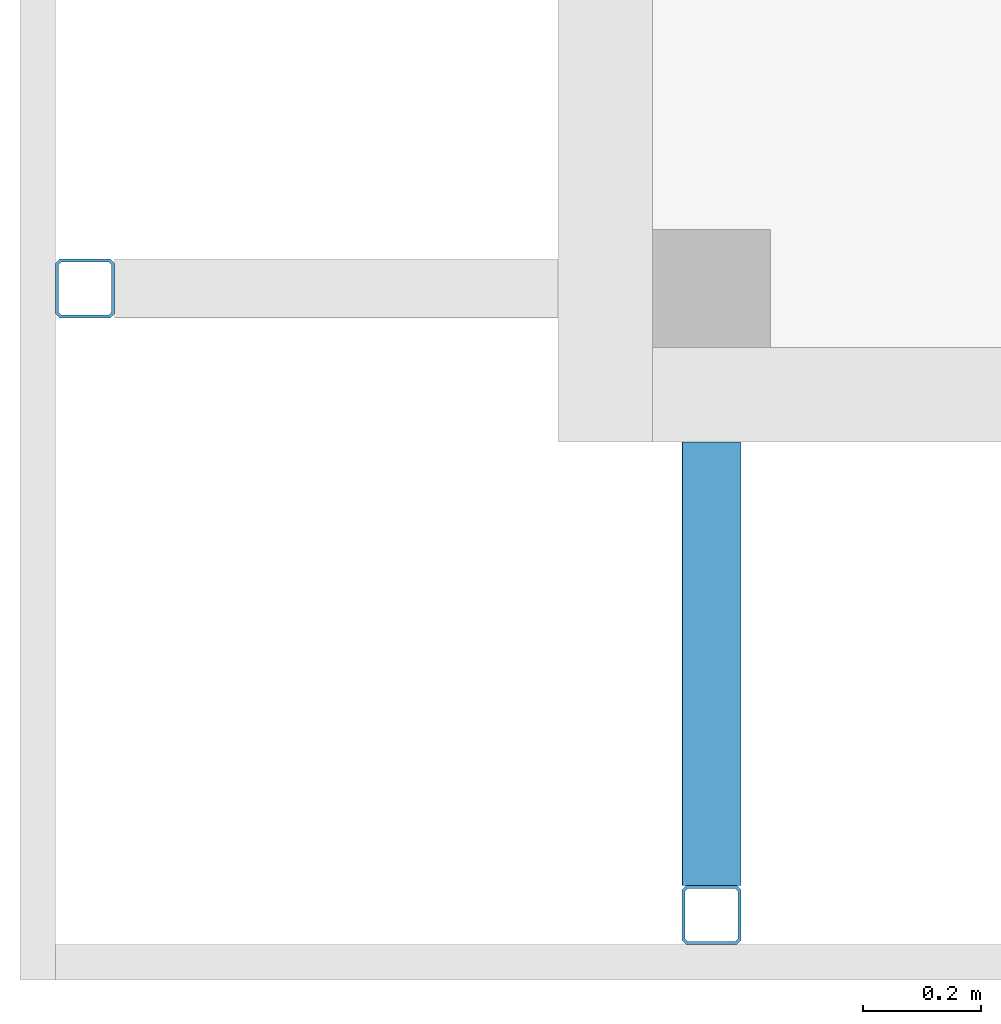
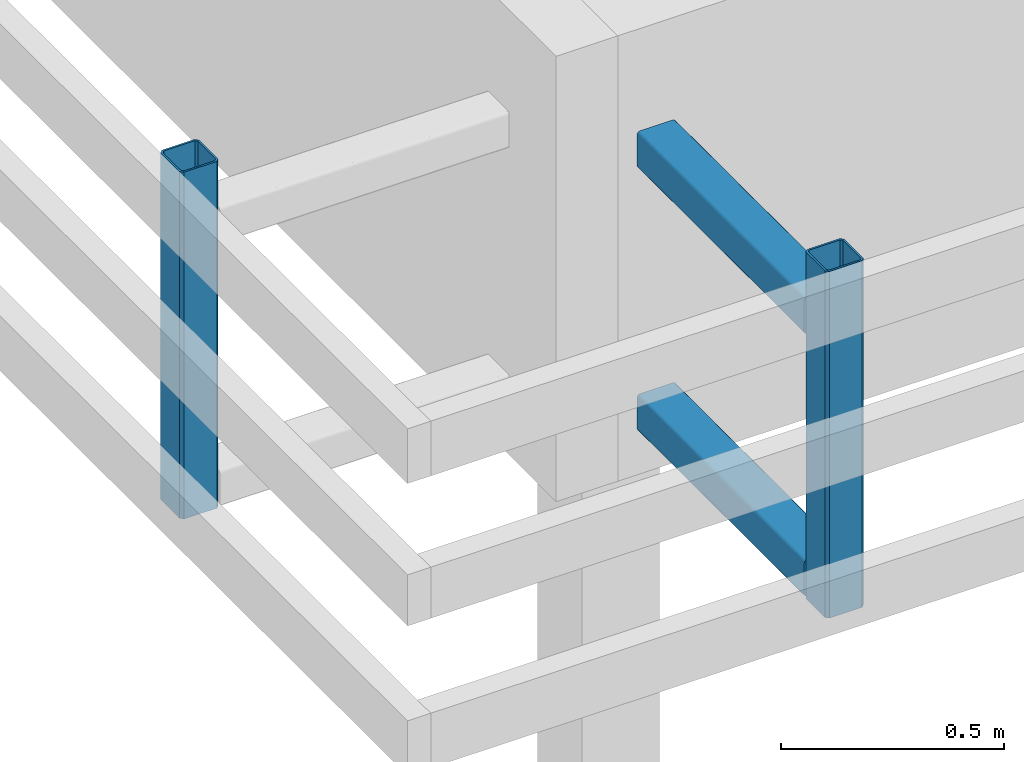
# One storey, part 4 of 44: 4 members.
"""IFC4 building model written with IfcOpenShell, lengths in metres."""

from ifc_helpers import new_model, entity, si_unit, converted_unit, derived_unit, frame, origin, place, context, subcontext, project, spatial, faceted_brep, material, element, save


model = new_model("IFC4")

# Units and contexts
model_context = context("Model", 3, precision=1e-05, world=origin())
plan_context = context("Plan", 2, precision=1e-05, world=origin())
body_context = subcontext(model_context, "Body", "Model", "MODEL_VIEW")
ifc_project = project(units=[si_unit("LENGTHUNIT", "METRE"), si_unit("AREAUNIT", "SQUARE_METRE"), si_unit("VOLUMEUNIT", "CUBIC_METRE"), si_unit("MASSUNIT", "GRAM", prefix="KILO"), converted_unit("PLANEANGLEUNIT", "DEGREE", entity("IfcPlaneAngleMeasure", 0.0174532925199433), si_unit("PLANEANGLEUNIT", "RADIAN"), dimensions=[0, 0, 0, 0, 0, 0, 0]), derived_unit("THERMALTRANSMITTANCEUNIT", [(si_unit("POWERUNIT", "WATT"), 1), (si_unit("THERMODYNAMICTEMPERATUREUNIT", "KELVIN"), -1), (si_unit("LENGTHUNIT", "METRE"), -2)]), derived_unit("VOLUMETRICFLOWRATEUNIT", [(si_unit("LENGTHUNIT", "METRE"), 3), (converted_unit("TIMEUNIT", "hour", entity("IfcTimeMeasure", 3600.0), si_unit("TIMEUNIT", "SECOND"), dimensions=[0, 0, 1, 0, 0, 0, 0]), -1), (si_unit("LENGTHUNIT", "METRE"), -1)])], contexts=[model_context, plan_context])

# Site, building, storey
site_placement = place(None, origin())
site = spatial("IfcSite", under=ifc_project, at=site_placement, Name="Site", CompositionType="ELEMENT")
building_placement = place(site_placement, origin())
building = spatial("IfcBuilding", under=site, at=building_placement, Name="Admin", CompositionType="ELEMENT")
storey_placement = place(building_placement, frame((0.0, 0.0, 3.25)))
storey = spatial("IfcBuildingStorey", under=building, at=storey_placement, Name="01-Etage1", CompositionType="ELEMENT", Elevation=3.25)

# Members
ifc_material_1 = material(Name="S235")
member_1_placement = place(storey_placement, frame((23.1498008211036, 12.0794493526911, 2.82)))
element("IfcMember", 1, at=member_1_placement, inside=storey, material=ifc_material_1, Name="Colonnes bois R+1", context=body_context, shape_type="Brep", body=[
    faceted_brep([(0.0950000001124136, 0.0900000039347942, 0.0), (0.0950000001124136, 0.0900000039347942, 0.95), (0.095000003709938, 0.0100000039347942, 0.95), (0.095000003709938, 0.0100000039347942, 0.0), (0.0899999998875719, 0.0950000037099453, 0.0), (0.0899999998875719, 0.0950000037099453, 0.95), (0.0099999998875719, 0.0950000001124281, 0.0), (0.0099999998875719, 0.0950000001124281, 0.95), (0.00500000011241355, 0.0899999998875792, 0.0), (0.00500000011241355, 0.0899999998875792, 0.95), (0.00500000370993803, 0.00999999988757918, 0.0), (0.00500000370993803, 0.00999999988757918, 0.95), (0.0100000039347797, 0.0050000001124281, 0.0), (0.0100000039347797, 0.0050000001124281, 0.95), (0.0900000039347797, 0.0050000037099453, 0.0), (0.0900000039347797, 0.0050000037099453, 0.95), (0.0925000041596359, 3.82237340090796e-09, 0.0), (0.0925000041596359, 3.82237340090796e-09, 0.95), (0.100000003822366, 0.00750000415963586, 0.95), (0.100000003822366, 0.00750000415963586, 0.0), (0.00750000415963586, 0.0, 0.0), (0.00750000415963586, 0.0, 0.95), (3.82236612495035e-09, 0.00749999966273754, 0.0), (3.82236612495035e-09, 0.00749999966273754, 0.95), (0.0, 0.0924999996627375, 0.0), (0.0, 0.0924999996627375, 0.95), (0.00749999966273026, 0.1, 0.0), (0.00749999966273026, 0.1, 0.95), (0.0924999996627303, 0.100000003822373, 0.0), (0.0924999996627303, 0.100000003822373, 0.95), (0.1, 0.0925000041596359, 0.0), (0.1, 0.0925000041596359, 0.95)], [[[0, 1, 2, 3]], [[4, 5, 1, 0]], [[6, 7, 5, 4]], [[8, 9, 7, 6]], [[10, 11, 9, 8]], [[12, 13, 11, 10]], [[14, 15, 13, 12]], [[3, 2, 15, 14]], [[16, 17, 18, 19]], [[20, 21, 17, 16]], [[22, 23, 21, 20]], [[24, 25, 23, 22]], [[26, 27, 25, 24]], [[28, 29, 27, 26]], [[30, 31, 29, 28]], [[19, 18, 31, 30]], [[18, 17, 21, 23, 25, 27, 29, 31], [2, 1, 5, 7, 9, 11, 13, 15]], [[19, 30, 28, 26, 24, 22, 20, 16], [3, 14, 12, 10, 8, 6, 4, 0]]], orient=[[False], [False], [False], [False], [False], [False], [False], [False], [False], [False], [False], [False], [False], [False], [False], [False], [False, False], [False, False]]),
])
ifc_material_2 = material(Name="S235")
member_2_placement = place(storey_placement, frame((24.2098010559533, 11.0194493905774, 2.82)))
element("IfcMember", 2, at=member_2_placement, inside=storey, material=ifc_material_2, Name="Bandeau R+1", context=body_context, shape_type="Brep", body=[
    faceted_brep([(0.01, 0.095, 0.0), (0.01, 0.095, 0.95), (0.09, 0.095, 0.95), (0.09, 0.095, 0.0), (0.005, 0.09, 0.0), (0.005, 0.09, 0.95), (0.005, 0.01, 0.0), (0.005, 0.01, 0.95), (0.01, 0.005, 0.0), (0.01, 0.005, 0.95), (0.09, 0.005, 0.0), (0.09, 0.005, 0.95), (0.095, 0.01, 0.0), (0.095, 0.01, 0.95), (0.095, 0.09, 0.0), (0.095, 0.09, 0.95), (0.1, 0.0925, 0.0), (0.1, 0.0925, 0.95), (0.0925, 0.1, 0.95), (0.0925, 0.1, 0.0), (0.1, 0.0075, 0.0), (0.1, 0.0075, 0.95), (0.0925, 0.0, 0.0), (0.0925, 0.0, 0.95), (0.0075, 0.0, 0.0), (0.0075, 0.0, 0.95), (0.0, 0.0075, 0.0), (0.0, 0.0075, 0.95), (0.0, 0.0925, 0.0), (0.0, 0.0925, 0.95), (0.0075, 0.1, 0.0), (0.0075, 0.1, 0.95)], [[[0, 1, 2, 3]], [[4, 5, 1, 0]], [[6, 7, 5, 4]], [[8, 9, 7, 6]], [[10, 11, 9, 8]], [[12, 13, 11, 10]], [[14, 15, 13, 12]], [[3, 2, 15, 14]], [[16, 17, 18, 19]], [[20, 21, 17, 16]], [[22, 23, 21, 20]], [[24, 25, 23, 22]], [[26, 27, 25, 24]], [[28, 29, 27, 26]], [[30, 31, 29, 28]], [[19, 18, 31, 30]], [[18, 17, 21, 23, 25, 27, 29, 31], [2, 1, 5, 7, 9, 11, 13, 15]], [[19, 30, 28, 26, 24, 22, 20, 16], [3, 14, 12, 10, 8, 6, 4, 0]]], orient=[[False], [False], [False], [False], [False], [False], [False], [False], [False], [False], [False], [False], [False], [False], [False], [False], [False, False], [False, False]]),
])
ifc_material_3 = material(Name="S235")
member_3_placement = place(storey_placement, frame((24.2098010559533, 11.1194493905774, 3.54)))
element("IfcMember", 3, at=member_3_placement, inside=storey, material=ifc_material_3, Name="Bandeau R+1", context=body_context, shape_type="Brep", body=[
    faceted_brep([(0.095, 0.0, 0.09), (0.095, 0.0, 0.01), (0.0950000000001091, 0.749999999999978, 0.01), (0.0950000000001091, 0.749999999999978, 0.09), (0.0949240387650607, 0.0, 0.0908682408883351), (0.0949240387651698, 0.749999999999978, 0.0908682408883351), (0.0946984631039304, 0.0, 0.0917101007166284), (0.0946984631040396, 0.749999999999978, 0.0917101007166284), (0.0943301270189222, 0.0, 0.0925), (0.0943301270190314, 0.749999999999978, 0.0925), (0.0938302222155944, 0.0, 0.0932139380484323), (0.0938302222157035, 0.749999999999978, 0.0932139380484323), (0.0932139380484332, 1.81898940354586e-15, 0.0938302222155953), (0.0932139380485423, 0.74999999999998, 0.0938302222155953), (0.0925, 1.81898940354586e-15, 0.0943301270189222), (0.0925000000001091, 0.74999999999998, 0.0943301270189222), (0.0917101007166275, 1.81898940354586e-15, 0.0946984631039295), (0.0917101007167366, 0.74999999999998, 0.0946984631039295), (0.090868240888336, 1.81898940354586e-15, 0.0949240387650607), (0.0908682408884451, 0.74999999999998, 0.0949240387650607), (0.09, 1.81898940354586e-15, 0.095), (0.0900000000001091, 0.74999999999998, 0.095), (0.01, 1.2732925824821e-14, 0.095), (0.0100000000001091, 0.749999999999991, 0.095), (0.009131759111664, 1.2732925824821e-14, 0.0949240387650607), (0.00913175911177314, 0.749999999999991, 0.0949240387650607), (0.00828989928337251, 1.2732925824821e-14, 0.0946984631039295), (0.00828989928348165, 0.749999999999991, 0.0946984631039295), (0.0075, 1.2732925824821e-14, 0.0943301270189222), (0.00750000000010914, 0.749999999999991, 0.0943301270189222), (0.00678606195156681, 1.2732925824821e-14, 0.0938302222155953), (0.00678606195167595, 0.749999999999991, 0.0938302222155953), (0.0061697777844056, 1.45519152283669e-14, 0.0932139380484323), (0.00616977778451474, 0.749999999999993, 0.0932139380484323), (0.00566987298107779, 1.45519152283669e-14, 0.0925), (0.00566987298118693, 0.749999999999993, 0.0925), (0.00530153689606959, 1.45519152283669e-14, 0.0917101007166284), (0.00530153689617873, 0.749999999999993, 0.0917101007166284), (0.00507596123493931, 1.45519152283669e-14, 0.0908682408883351), (0.00507596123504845, 0.749999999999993, 0.0908682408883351), (0.005, 1.45519152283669e-14, 0.09), (0.00500000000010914, 0.749999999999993, 0.09), (0.005, 1.45519152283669e-14, 0.01), (0.00500000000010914, 0.749999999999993, 0.01), (0.00507596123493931, 1.45519152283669e-14, 0.00913175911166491), (0.00507596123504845, 0.749999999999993, 0.00913175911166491), (0.00530153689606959, 1.45519152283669e-14, 0.0082898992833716), (0.00530153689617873, 0.749999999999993, 0.0082898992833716), (0.00566987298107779, 1.45519152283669e-14, 0.0075), (0.00566987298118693, 0.749999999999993, 0.0075), (0.0061697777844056, 1.45519152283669e-14, 0.00678606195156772), (0.00616977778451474, 0.749999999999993, 0.00678606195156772), (0.00678606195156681, 1.2732925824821e-14, 0.00616977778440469), (0.00678606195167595, 0.749999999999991, 0.00616977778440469), (0.0075, 1.2732925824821e-14, 0.00566987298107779), (0.00750000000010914, 0.749999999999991, 0.00566987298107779), (0.00828989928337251, 1.2732925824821e-14, 0.0053015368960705), (0.00828989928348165, 0.749999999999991, 0.0053015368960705), (0.009131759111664, 1.2732925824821e-14, 0.00507596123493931), (0.00913175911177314, 0.749999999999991, 0.00507596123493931), (0.01, 1.2732925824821e-14, 0.005), (0.0100000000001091, 0.749999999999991, 0.005), (0.09, 1.81898940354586e-15, 0.005), (0.0900000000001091, 0.74999999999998, 0.005), (0.090868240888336, 1.81898940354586e-15, 0.00507596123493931), (0.0908682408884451, 0.74999999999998, 0.00507596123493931), (0.0917101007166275, 1.81898940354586e-15, 0.0053015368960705), (0.0917101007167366, 0.74999999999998, 0.0053015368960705), (0.0925, 1.81898940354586e-15, 0.00566987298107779), (0.0925000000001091, 0.74999999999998, 0.00566987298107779), (0.0932139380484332, 1.81898940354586e-15, 0.00616977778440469), (0.0932139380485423, 0.74999999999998, 0.00616977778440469), (0.0938302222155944, 0.0, 0.00678606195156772), (0.0938302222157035, 0.749999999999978, 0.00678606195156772), (0.0943301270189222, 0.0, 0.0075), (0.0943301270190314, 0.749999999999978, 0.0075), (0.0946984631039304, 0.0, 0.0082898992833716), (0.0946984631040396, 0.749999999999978, 0.0082898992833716), (0.0949240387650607, 0.0, 0.00913175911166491), (0.0949240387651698, 0.749999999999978, 0.00913175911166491), (0.0075, 1.2732925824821e-14, 0.1), (0.00619763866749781, 1.45519152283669e-14, 0.0998860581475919), (0.00619763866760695, 0.749999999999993, 0.0998860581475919), (0.00750000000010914, 0.749999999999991, 0.1), (0.0925, 1.81898940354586e-15, 0.1), (0.0925000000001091, 0.74999999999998, 0.1), (0.0938023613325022, 0.0, 0.0998860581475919), (0.0938023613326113, 0.749999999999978, 0.0998860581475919), (0.0950651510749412, 0.0, 0.0995476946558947), (0.0950651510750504, 0.749999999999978, 0.0995476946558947), (0.09625, 0.0, 0.0989951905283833), (0.0962500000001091, 0.749999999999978, 0.0989951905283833), (0.097320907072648, 0.0, 0.0982453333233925), (0.0973209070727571, 0.749999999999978, 0.0982453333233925), (0.0982453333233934, 0.0, 0.0973209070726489), (0.0982453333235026, 0.749999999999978, 0.0973209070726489), (0.0989951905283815, 0.0, 0.09625), (0.0989951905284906, 0.749999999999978, 0.09625), (0.0995476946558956, 0.0, 0.0950651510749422), (0.0995476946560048, 0.749999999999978, 0.0950651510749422), (0.0998860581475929, 0.0, 0.0938023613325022), (0.099886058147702, 0.749999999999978, 0.0938023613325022), (0.1, 0.0, 0.0925), (0.100000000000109, 0.749999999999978, 0.0925), (0.0998860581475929, 0.0, 0.00619763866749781), (0.1, 0.0, 0.0075), (0.100000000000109, 0.749999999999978, 0.0075), (0.099886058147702, 0.749999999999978, 0.00619763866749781), (0.0995476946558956, 0.0, 0.00493484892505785), (0.0995476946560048, 0.749999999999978, 0.00493484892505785), (0.0989951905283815, 0.0, 0.00375), (0.0989951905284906, 0.749999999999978, 0.00375), (0.0982453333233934, 0.0, 0.00267909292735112), (0.0982453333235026, 0.749999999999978, 0.00267909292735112), (0.097320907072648, 0.0, 0.00175466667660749), (0.0973209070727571, 0.749999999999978, 0.00175466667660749), (0.09625, 0.0, 0.00100480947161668), (0.0962500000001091, 0.749999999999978, 0.00100480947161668), (0.0950651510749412, 0.0, 0.000452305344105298), (0.0950651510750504, 0.749999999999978, 0.000452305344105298), (0.0938023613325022, 0.0, 0.000113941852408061), (0.0938023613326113, 0.749999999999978, 0.000113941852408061), (0.0925, 1.81898940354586e-15, 0.0), (0.0925000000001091, 0.74999999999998, 0.0), (0.0075, 1.2732925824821e-14, 0.0), (0.00750000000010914, 0.749999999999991, 0.0), (0.00619763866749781, 1.45519152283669e-14, 0.000113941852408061), (0.00619763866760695, 0.749999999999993, 0.000113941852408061), (0.00493484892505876, 1.45519152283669e-14, 0.000452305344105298), (0.0049348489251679, 0.749999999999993, 0.000452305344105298), (0.00375, 1.45519152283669e-14, 0.00100480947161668), (0.00375000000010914, 0.749999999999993, 0.00100480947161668), (0.00267909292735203, 1.45519152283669e-14, 0.00175466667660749), (0.00267909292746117, 0.749999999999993, 0.00175466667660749), (0.00175466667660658, 1.45519152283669e-14, 0.00267909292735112), (0.00175466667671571, 0.749999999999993, 0.00267909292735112), (0.0010048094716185, 1.45519152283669e-14, 0.00375), (0.00100480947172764, 0.749999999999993, 0.00375), (0.000452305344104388, 1.45519152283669e-14, 0.00493484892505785), (0.000452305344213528, 0.749999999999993, 0.00493484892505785), (0.000113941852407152, 1.45519152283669e-14, 0.00619763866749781), (0.000113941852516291, 0.749999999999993, 0.00619763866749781), (0.0, 0.0, 0.0075), (1.09139364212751e-13, 0.749999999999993, 0.0075), (0.000113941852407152, 1.45519152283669e-14, 0.0938023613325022), (0.0, -1.81898940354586e-15, 0.0925), (1.09139364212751e-13, 0.749999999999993, 0.0925), (0.000113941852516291, 0.749999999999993, 0.0938023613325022), (0.000452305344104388, 1.45519152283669e-14, 0.0950651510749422), (0.000452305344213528, 0.749999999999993, 0.0950651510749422), (0.0010048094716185, 1.45519152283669e-14, 0.09625), (0.00100480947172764, 0.749999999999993, 0.09625), (0.00175466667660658, 1.45519152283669e-14, 0.0973209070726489), (0.00175466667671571, 0.749999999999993, 0.0973209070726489), (0.00267909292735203, 1.45519152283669e-14, 0.0982453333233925), (0.00267909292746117, 0.749999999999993, 0.0982453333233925), (0.00375, 1.45519152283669e-14, 0.0989951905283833), (0.00375000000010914, 0.749999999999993, 0.0989951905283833), (0.00493484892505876, 1.45519152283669e-14, 0.0995476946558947), (0.0049348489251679, 0.749999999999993, 0.0995476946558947)], [[[0, 1, 2, 3]], [[4, 0, 3, 5]], [[6, 4, 5, 7]], [[8, 6, 7, 9]], [[10, 8, 9, 11]], [[12, 10, 11, 13]], [[14, 12, 13, 15]], [[16, 14, 15, 17]], [[18, 16, 17, 19]], [[20, 18, 19, 21]], [[22, 20, 21, 23]], [[24, 22, 23, 25]], [[26, 24, 25, 27]], [[28, 26, 27, 29]], [[30, 28, 29, 31]], [[32, 30, 31, 33]], [[34, 32, 33, 35]], [[36, 34, 35, 37]], [[38, 36, 37, 39]], [[40, 38, 39, 41]], [[42, 40, 41, 43]], [[44, 42, 43, 45]], [[46, 44, 45, 47]], [[48, 46, 47, 49]], [[50, 48, 49, 51]], [[52, 50, 51, 53]], [[54, 52, 53, 55]], [[56, 54, 55, 57]], [[58, 56, 57, 59]], [[60, 58, 59, 61]], [[62, 60, 61, 63]], [[64, 62, 63, 65]], [[66, 64, 65, 67]], [[68, 66, 67, 69]], [[70, 68, 69, 71]], [[72, 70, 71, 73]], [[74, 72, 73, 75]], [[76, 74, 75, 77]], [[78, 76, 77, 79]], [[1, 78, 79, 2]], [[80, 81, 82, 83]], [[84, 80, 83, 85]], [[86, 84, 85, 87]], [[88, 86, 87, 89]], [[90, 88, 89, 91]], [[92, 90, 91, 93]], [[94, 92, 93, 95]], [[96, 94, 95, 97]], [[98, 96, 97, 99]], [[100, 98, 99, 101]], [[102, 100, 101, 103]], [[104, 105, 106, 107]], [[108, 104, 107, 109]], [[110, 108, 109, 111]], [[112, 110, 111, 113]], [[114, 112, 113, 115]], [[116, 114, 115, 117]], [[118, 116, 117, 119]], [[120, 118, 119, 121]], [[122, 120, 121, 123]], [[124, 122, 123, 125]], [[126, 124, 125, 127]], [[128, 126, 127, 129]], [[130, 128, 129, 131]], [[132, 130, 131, 133]], [[134, 132, 133, 135]], [[136, 134, 135, 137]], [[138, 136, 137, 139]], [[140, 138, 139, 141]], [[142, 140, 141, 143]], [[144, 145, 146, 147]], [[148, 144, 147, 149]], [[150, 148, 149, 151]], [[152, 150, 151, 153]], [[154, 152, 153, 155]], [[156, 154, 155, 157]], [[158, 156, 157, 159]], [[81, 158, 159, 82]], [[146, 143, 141, 139, 137, 135, 133, 131, 129, 127, 125, 123, 121, 119, 117, 115, 113, 111, 109, 107, 106, 103, 101, 99, 97, 95, 93, 91, 89, 87, 85, 83, 82, 159, 157, 155, 153, 151, 149, 147], [2, 79, 77, 75, 73, 71, 69, 67, 65, 63, 61, 59, 57, 55, 53, 51, 49, 47, 45, 43, 41, 39, 37, 35, 33, 31, 29, 27, 25, 23, 21, 19, 17, 15, 13, 11, 9, 7, 5, 3]], [[103, 106, 105, 102]], [[102, 105, 104, 108, 110, 112, 114, 116, 118, 120, 122, 124, 126, 128, 130, 132, 134, 136, 138, 140, 142, 145, 144, 148, 150, 152, 154, 156, 158, 81, 80, 84, 86, 88, 90, 92, 94, 96, 98, 100], [1, 0, 4, 6, 8, 10, 12, 14, 16, 18, 20, 22, 24, 26, 28, 30, 32, 34, 36, 38, 40, 42, 44, 46, 48, 50, 52, 54, 56, 58, 60, 62, 64, 66, 68, 70, 72, 74, 76, 78]], [[145, 142, 143, 146]]], orient=[[False], [False], [False], [False], [False], [False], [False], [False], [False], [False], [False], [False], [False], [False], [False], [False], [False], [False], [False], [False], [False], [False], [False], [False], [False], [False], [False], [False], [False], [False], [False], [False], [False], [False], [False], [False], [False], [False], [False], [False], [False], [False], [False], [False], [False], [False], [False], [False], [False], [False], [False], [False], [False], [False], [False], [False], [False], [False], [False], [False], [False], [False], [False], [False], [False], [False], [False], [False], [False], [False], [False], [False], [False], [False], [False], [False], [False], [False], [False, False], [False], [False, False], [False]]),
])
ifc_material_4 = material(Name="S235")
member_4_placement = place(storey_placement, frame((24.2098010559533, 11.1194493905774, 2.82)))
element("IfcMember", 4, at=member_4_placement, inside=storey, material=ifc_material_4, Name="Bandeau R+1", context=body_context, shape_type="Brep", body=[
    faceted_brep([(0.095, 0.0, 0.09), (0.095, 0.0, 0.01), (0.0950000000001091, 0.749999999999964, 0.01), (0.0950000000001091, 0.749999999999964, 0.09), (0.0949240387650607, 0.0, 0.0908682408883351), (0.0949240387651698, 0.749999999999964, 0.0908682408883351), (0.0946984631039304, 0.0, 0.0917101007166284), (0.0946984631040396, 0.749999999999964, 0.0917101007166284), (0.0943301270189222, 0.0, 0.0925), (0.0943301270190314, 0.749999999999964, 0.0925), (0.0938302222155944, 0.0, 0.0932139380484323), (0.0938302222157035, 0.749999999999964, 0.0932139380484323), (0.0932139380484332, 1.81898940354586e-15, 0.0938302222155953), (0.0932139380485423, 0.749999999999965, 0.0938302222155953), (0.0925, 1.81898940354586e-15, 0.0943301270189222), (0.0925000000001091, 0.749999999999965, 0.0943301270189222), (0.0917101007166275, 1.81898940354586e-15, 0.0946984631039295), (0.0917101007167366, 0.749999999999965, 0.0946984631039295), (0.090868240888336, 1.81898940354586e-15, 0.0949240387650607), (0.0908682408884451, 0.749999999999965, 0.0949240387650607), (0.09, 1.81898940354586e-15, 0.095), (0.0900000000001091, 0.749999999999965, 0.095), (0.01, 1.2732925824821e-14, 0.095), (0.0100000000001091, 0.749999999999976, 0.095), (0.009131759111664, 1.2732925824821e-14, 0.0949240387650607), (0.00913175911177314, 0.749999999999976, 0.0949240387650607), (0.00828989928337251, 1.2732925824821e-14, 0.0946984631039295), (0.00828989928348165, 0.749999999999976, 0.0946984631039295), (0.0075, 1.2732925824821e-14, 0.0943301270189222), (0.00750000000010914, 0.749999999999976, 0.0943301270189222), (0.00678606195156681, 1.2732925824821e-14, 0.0938302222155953), (0.00678606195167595, 0.749999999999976, 0.0938302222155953), (0.0061697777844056, 1.45519152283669e-14, 0.0932139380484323), (0.00616977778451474, 0.749999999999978, 0.0932139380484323), (0.00566987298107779, 1.45519152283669e-14, 0.0925), (0.00566987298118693, 0.749999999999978, 0.0925), (0.00530153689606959, 1.45519152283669e-14, 0.0917101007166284), (0.00530153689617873, 0.749999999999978, 0.0917101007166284), (0.00507596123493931, 1.45519152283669e-14, 0.0908682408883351), (0.00507596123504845, 0.749999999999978, 0.0908682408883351), (0.005, 1.45519152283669e-14, 0.09), (0.00500000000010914, 0.749999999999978, 0.09), (0.005, 1.45519152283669e-14, 0.01), (0.00500000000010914, 0.749999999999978, 0.01), (0.00507596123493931, 1.45519152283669e-14, 0.00913175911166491), (0.00507596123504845, 0.749999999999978, 0.00913175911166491), (0.00530153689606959, 1.45519152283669e-14, 0.0082898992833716), (0.00530153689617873, 0.749999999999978, 0.0082898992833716), (0.00566987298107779, 1.45519152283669e-14, 0.0075), (0.00566987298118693, 0.749999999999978, 0.0075), (0.0061697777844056, 1.45519152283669e-14, 0.00678606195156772), (0.00616977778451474, 0.749999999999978, 0.00678606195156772), (0.00678606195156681, 1.2732925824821e-14, 0.00616977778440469), (0.00678606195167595, 0.749999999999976, 0.00616977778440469), (0.0075, 1.2732925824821e-14, 0.00566987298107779), (0.00750000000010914, 0.749999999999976, 0.00566987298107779), (0.00828989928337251, 1.2732925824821e-14, 0.0053015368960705), (0.00828989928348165, 0.749999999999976, 0.0053015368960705), (0.009131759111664, 1.2732925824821e-14, 0.00507596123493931), (0.00913175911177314, 0.749999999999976, 0.00507596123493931), (0.01, 1.2732925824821e-14, 0.005), (0.0100000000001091, 0.749999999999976, 0.005), (0.09, 1.81898940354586e-15, 0.005), (0.0900000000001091, 0.749999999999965, 0.005), (0.090868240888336, 1.81898940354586e-15, 0.00507596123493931), (0.0908682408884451, 0.749999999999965, 0.00507596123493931), (0.0917101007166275, 1.81898940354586e-15, 0.0053015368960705), (0.0917101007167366, 0.749999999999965, 0.0053015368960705), (0.0925, 1.81898940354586e-15, 0.00566987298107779), (0.0925000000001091, 0.749999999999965, 0.00566987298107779), (0.0932139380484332, 1.81898940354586e-15, 0.00616977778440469), (0.0932139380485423, 0.749999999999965, 0.00616977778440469), (0.0938302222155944, 0.0, 0.00678606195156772), (0.0938302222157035, 0.749999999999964, 0.00678606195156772), (0.0943301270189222, 0.0, 0.0075), (0.0943301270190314, 0.749999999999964, 0.0075), (0.0946984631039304, 0.0, 0.0082898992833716), (0.0946984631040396, 0.749999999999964, 0.0082898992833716), (0.0949240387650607, 0.0, 0.00913175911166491), (0.0949240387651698, 0.749999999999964, 0.00913175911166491), (0.0075, 1.2732925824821e-14, 0.1), (0.00619763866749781, 1.45519152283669e-14, 0.0998860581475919), (0.00619763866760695, 0.749999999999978, 0.0998860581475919), (0.00750000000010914, 0.749999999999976, 0.1), (0.0925, 1.81898940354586e-15, 0.1), (0.0925000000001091, 0.749999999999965, 0.1), (0.0938023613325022, 0.0, 0.0998860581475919), (0.0938023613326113, 0.749999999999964, 0.0998860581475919), (0.0950651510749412, 0.0, 0.0995476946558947), (0.0950651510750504, 0.749999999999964, 0.0995476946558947), (0.09625, 0.0, 0.0989951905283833), (0.0962500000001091, 0.749999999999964, 0.0989951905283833), (0.097320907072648, 0.0, 0.0982453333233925), (0.0973209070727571, 0.749999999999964, 0.0982453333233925), (0.0982453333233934, 0.0, 0.0973209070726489), (0.0982453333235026, 0.749999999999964, 0.0973209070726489), (0.0989951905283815, 0.0, 0.09625), (0.0989951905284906, 0.749999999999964, 0.09625), (0.0995476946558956, 0.0, 0.0950651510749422), (0.0995476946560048, 0.749999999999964, 0.0950651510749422), (0.0998860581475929, 0.0, 0.0938023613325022), (0.099886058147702, 0.749999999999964, 0.0938023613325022), (0.1, 0.0, 0.0925), (0.100000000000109, 0.749999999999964, 0.0925), (0.0998860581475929, 0.0, 0.00619763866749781), (0.1, 0.0, 0.0075), (0.100000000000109, 0.749999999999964, 0.0075), (0.099886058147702, 0.749999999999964, 0.00619763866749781), (0.0995476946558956, 0.0, 0.00493484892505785), (0.0995476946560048, 0.749999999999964, 0.00493484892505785), (0.0989951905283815, 0.0, 0.00375), (0.0989951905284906, 0.749999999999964, 0.00375), (0.0982453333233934, 0.0, 0.00267909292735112), (0.0982453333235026, 0.749999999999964, 0.00267909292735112), (0.097320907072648, 0.0, 0.00175466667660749), (0.0973209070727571, 0.749999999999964, 0.00175466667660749), (0.09625, 0.0, 0.00100480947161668), (0.0962500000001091, 0.749999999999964, 0.00100480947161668), (0.0950651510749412, 0.0, 0.000452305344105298), (0.0950651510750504, 0.749999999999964, 0.000452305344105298), (0.0938023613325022, 0.0, 0.000113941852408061), (0.0938023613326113, 0.749999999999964, 0.000113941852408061), (0.0925, 1.81898940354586e-15, 0.0), (0.0925000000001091, 0.749999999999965, 0.0), (0.0075, 1.2732925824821e-14, 0.0), (0.00750000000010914, 0.749999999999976, 0.0), (0.00619763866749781, 1.45519152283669e-14, 0.000113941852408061), (0.00619763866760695, 0.749999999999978, 0.000113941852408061), (0.00493484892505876, 1.45519152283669e-14, 0.000452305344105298), (0.0049348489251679, 0.749999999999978, 0.000452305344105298), (0.00375, 1.45519152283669e-14, 0.00100480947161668), (0.00375000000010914, 0.749999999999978, 0.00100480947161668), (0.00267909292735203, 1.45519152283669e-14, 0.00175466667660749), (0.00267909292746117, 0.749999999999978, 0.00175466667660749), (0.00175466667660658, 1.45519152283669e-14, 0.00267909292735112), (0.00175466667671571, 0.749999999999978, 0.00267909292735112), (0.0010048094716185, 1.45519152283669e-14, 0.00375), (0.00100480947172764, 0.749999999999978, 0.00375), (0.000452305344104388, 1.45519152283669e-14, 0.00493484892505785), (0.000452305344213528, 0.749999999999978, 0.00493484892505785), (0.000113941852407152, 1.45519152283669e-14, 0.00619763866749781), (0.000113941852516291, 0.749999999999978, 0.00619763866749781), (0.0, 0.0, 0.0075), (1.09139364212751e-13, 0.749999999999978, 0.0075), (0.000113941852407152, 1.45519152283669e-14, 0.0938023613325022), (0.0, 0.0, 0.0925), (1.09139364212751e-13, 0.749999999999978, 0.0925), (0.000113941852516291, 0.749999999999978, 0.0938023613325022), (0.000452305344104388, 1.45519152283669e-14, 0.0950651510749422), (0.000452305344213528, 0.749999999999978, 0.0950651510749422), (0.0010048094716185, 1.45519152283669e-14, 0.09625), (0.00100480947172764, 0.749999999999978, 0.09625), (0.00175466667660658, 1.45519152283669e-14, 0.0973209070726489), (0.00175466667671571, 0.749999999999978, 0.0973209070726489), (0.00267909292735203, 1.45519152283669e-14, 0.0982453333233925), (0.00267909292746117, 0.749999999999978, 0.0982453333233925), (0.00375, 1.45519152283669e-14, 0.0989951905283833), (0.00375000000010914, 0.749999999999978, 0.0989951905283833), (0.00493484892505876, 1.45519152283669e-14, 0.0995476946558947), (0.0049348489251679, 0.749999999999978, 0.0995476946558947)], [[[0, 1, 2, 3]], [[4, 0, 3, 5]], [[6, 4, 5, 7]], [[8, 6, 7, 9]], [[10, 8, 9, 11]], [[12, 10, 11, 13]], [[14, 12, 13, 15]], [[16, 14, 15, 17]], [[18, 16, 17, 19]], [[20, 18, 19, 21]], [[22, 20, 21, 23]], [[24, 22, 23, 25]], [[26, 24, 25, 27]], [[28, 26, 27, 29]], [[30, 28, 29, 31]], [[32, 30, 31, 33]], [[34, 32, 33, 35]], [[36, 34, 35, 37]], [[38, 36, 37, 39]], [[40, 38, 39, 41]], [[42, 40, 41, 43]], [[44, 42, 43, 45]], [[46, 44, 45, 47]], [[48, 46, 47, 49]], [[50, 48, 49, 51]], [[52, 50, 51, 53]], [[54, 52, 53, 55]], [[56, 54, 55, 57]], [[58, 56, 57, 59]], [[60, 58, 59, 61]], [[62, 60, 61, 63]], [[64, 62, 63, 65]], [[66, 64, 65, 67]], [[68, 66, 67, 69]], [[70, 68, 69, 71]], [[72, 70, 71, 73]], [[74, 72, 73, 75]], [[76, 74, 75, 77]], [[78, 76, 77, 79]], [[1, 78, 79, 2]], [[80, 81, 82, 83]], [[84, 80, 83, 85]], [[86, 84, 85, 87]], [[88, 86, 87, 89]], [[90, 88, 89, 91]], [[92, 90, 91, 93]], [[94, 92, 93, 95]], [[96, 94, 95, 97]], [[98, 96, 97, 99]], [[100, 98, 99, 101]], [[102, 100, 101, 103]], [[104, 105, 106, 107]], [[108, 104, 107, 109]], [[110, 108, 109, 111]], [[112, 110, 111, 113]], [[114, 112, 113, 115]], [[116, 114, 115, 117]], [[118, 116, 117, 119]], [[120, 118, 119, 121]], [[122, 120, 121, 123]], [[124, 122, 123, 125]], [[126, 124, 125, 127]], [[128, 126, 127, 129]], [[130, 128, 129, 131]], [[132, 130, 131, 133]], [[134, 132, 133, 135]], [[136, 134, 135, 137]], [[138, 136, 137, 139]], [[140, 138, 139, 141]], [[142, 140, 141, 143]], [[144, 145, 146, 147]], [[148, 144, 147, 149]], [[150, 148, 149, 151]], [[152, 150, 151, 153]], [[154, 152, 153, 155]], [[156, 154, 155, 157]], [[158, 156, 157, 159]], [[81, 158, 159, 82]], [[146, 143, 141, 139, 137, 135, 133, 131, 129, 127, 125, 123, 121, 119, 117, 115, 113, 111, 109, 107, 106, 103, 101, 99, 97, 95, 93, 91, 89, 87, 85, 83, 82, 159, 157, 155, 153, 151, 149, 147], [2, 79, 77, 75, 73, 71, 69, 67, 65, 63, 61, 59, 57, 55, 53, 51, 49, 47, 45, 43, 41, 39, 37, 35, 33, 31, 29, 27, 25, 23, 21, 19, 17, 15, 13, 11, 9, 7, 5, 3]], [[103, 106, 105, 102]], [[102, 105, 104, 108, 110, 112, 114, 116, 118, 120, 122, 124, 126, 128, 130, 132, 134, 136, 138, 140, 142, 145, 144, 148, 150, 152, 154, 156, 158, 81, 80, 84, 86, 88, 90, 92, 94, 96, 98, 100], [1, 0, 4, 6, 8, 10, 12, 14, 16, 18, 20, 22, 24, 26, 28, 30, 32, 34, 36, 38, 40, 42, 44, 46, 48, 50, 52, 54, 56, 58, 60, 62, 64, 66, 68, 70, 72, 74, 76, 78]], [[145, 142, 143, 146]]], orient=[[False], [False], [False], [False], [False], [False], [False], [False], [False], [False], [False], [False], [False], [False], [False], [False], [False], [False], [False], [False], [False], [False], [False], [False], [False], [False], [False], [False], [False], [False], [False], [False], [False], [False], [False], [False], [False], [False], [False], [False], [False], [False], [False], [False], [False], [False], [False], [False], [False], [False], [False], [False], [False], [False], [False], [False], [False], [False], [False], [False], [False], [False], [False], [False], [False], [False], [False], [False], [False], [False], [False], [False], [False], [False], [False], [False], [False], [False], [False, False], [False], [False, False], [False]]),
])

save(model, "model.ifc")
